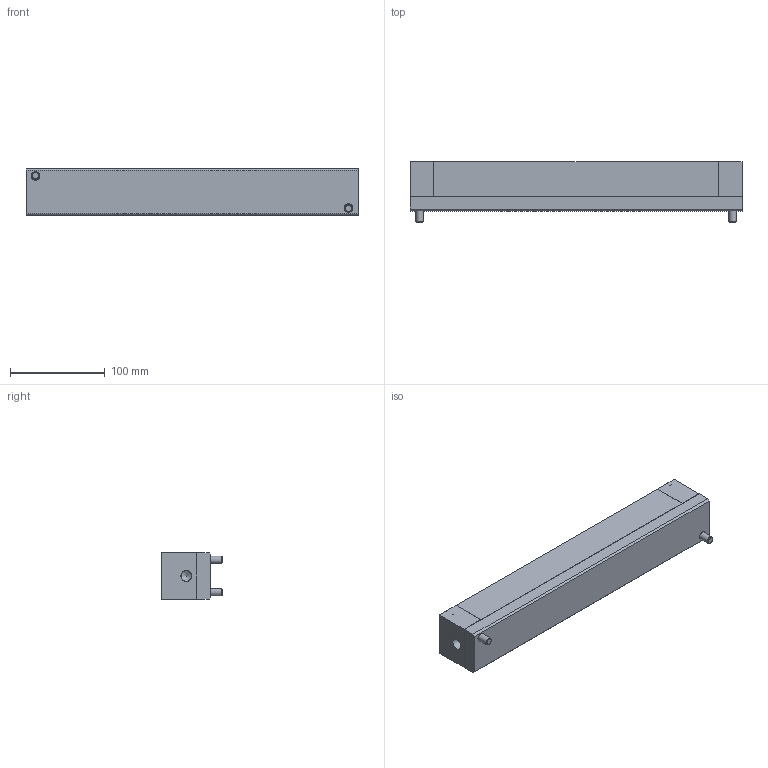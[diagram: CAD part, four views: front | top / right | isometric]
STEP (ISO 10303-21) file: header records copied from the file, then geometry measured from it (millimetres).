
FILE_DESCRIPTION( ( 'STEP AP214' ), '1' );
FILE_NAME( 'Z:/01-DesignData/標準品図面/★Web／カタログ用データ(型式別 3点Set)/072-ISR-C50D 系/ISR-C50D-350-A_0_.stp', '2022-05-10T00:43:01', ( 'License CC BY-ND 4.0' ), ( 'CADENAS' ), ' ', 'PARTsolutions', ' ' );
FILE_SCHEMA( ( 'AUTOMOTIVE_DESIGN { 1 0 10303 214 1 1 1 1 }' ) );
Length unit declared in the file: millimetre
Products named in the file (5): ISR-C50D-350-A(0); _ISR-C50D-350-A-Body; _ISR-C50D-350-A-Box; _ISR-C50D-350-A(0)-Ball; _ISR-C50D-350-A-screw
Assembly tree (10 placements, depth 2):
  ISR-C50D-350-A(0)
    _ISR-C50D-350-A-Body
    _ISR-C50D-350-A-Box
    _ISR-C50D-350-A(0)-Ball  x6
    _ISR-C50D-350-A-screw  x2
Bounding box: 350 x 64 x 49.5 mm (x, y, z)
Volume: 855407 mm3; surface area: 195799.7 mm2
Topology: 10 solids, 10 shells, 428 faces, 918 edges, 560 vertices
Faces by surface type: plane 302, cylinder 66, torus 28, cone 26, sphere 6
Full cylindrical faces by diameter (mm): 8 x2, 8.5 x12, 9 x2, 9.5 x12, 13 x4, 14.5 x4, 25.4 x6, 38.5 x6, 39 x6, 42 x12
Entity records: 11972 total; most frequent: DIRECTION 1612, CARTESIAN_POINT 1496, ORIENTED_EDGE 1330, EDGE_CURVE 665, AXIS2_PLACEMENT_3D 578, EDGE_LOOP 492, VERTEX_POINT 462, LINE 456
